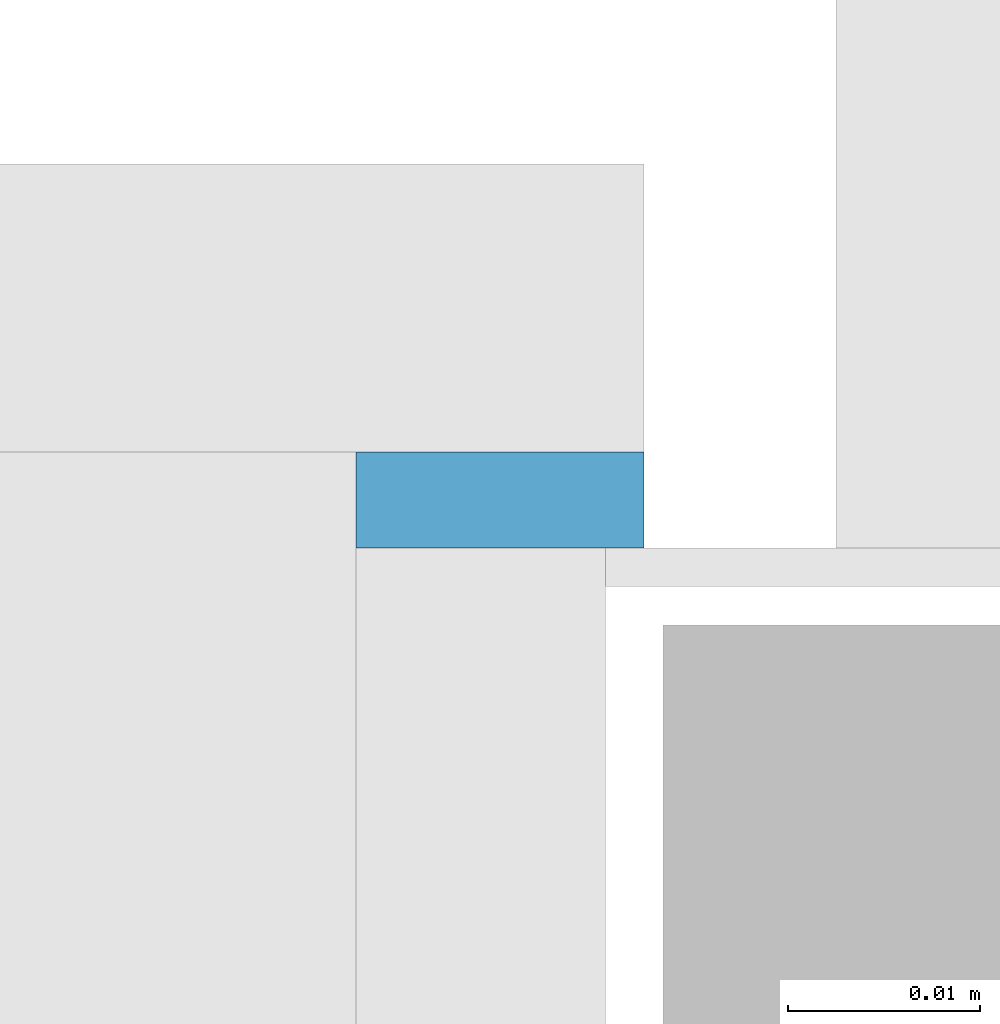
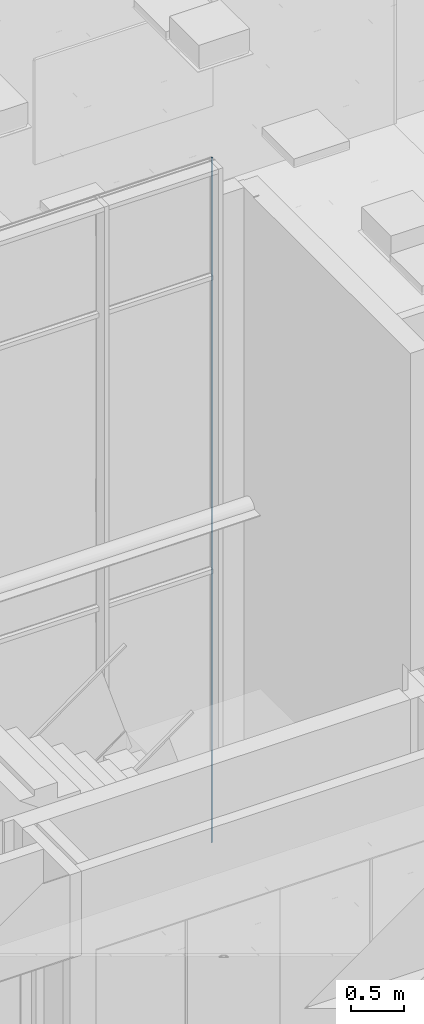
# One storey, part 111 of 347: 1 building element part, 1 element without a shape of its own.
"""IFC2X3 building model written with IfcOpenShell, lengths in millimetres."""

from ifc_helpers import new_model, entity, si_unit, converted_unit, derived_unit, money_unit, direction, frame, origin_with_axes, place, context, subcontext, project, spatial, faceted_brep, material, type_object, element, aggregate, save


model = new_model("IFC2X3")

# Units and contexts
model_context = context("Model", 3, precision=0.01, world=origin_with_axes(), true_north=direction((0.0, 1.0)))
plan_context = context("Plan", 3, precision=0.01, world=origin_with_axes(), true_north=direction((0.0, 1.0)))
body_context = subcontext(model_context, "Body", "Model", "MODEL_VIEW")
ifc_project = project(units=[si_unit("LENGTHUNIT", "METRE", prefix="MILLI"), si_unit("AREAUNIT", "SQUARE_METRE"), si_unit("VOLUMEUNIT", "CUBIC_METRE"), converted_unit("PLANEANGLEUNIT", "DEGREE", entity("IfcPlaneAngleMeasure", 0.0174532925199), si_unit("PLANEANGLEUNIT", "RADIAN"), dimensions=[0, 0, 0, 0, 0, 0, 0]), money_unit("EUR"), converted_unit("TIMEUNIT", "Year", entity("IfcTimeMeasure", 31556926.0), si_unit("TIMEUNIT", "SECOND"), dimensions=[0, 0, 1, 0, 0, 0, 0]), si_unit("MASSUNIT", "GRAM", prefix="KILO"), si_unit("THERMODYNAMICTEMPERATUREUNIT", "DEGREE_CELSIUS"), si_unit("LUMINOUSINTENSITYUNIT", "LUMEN"), si_unit("ENERGYUNIT", "JOULE", prefix="MEGA"), derived_unit("THERMALCONDUCTANCEUNIT", [(si_unit("POWERUNIT", "WATT"), 1), (si_unit("LENGTHUNIT", "METRE"), -1), (si_unit("THERMODYNAMICTEMPERATUREUNIT", "KELVIN"), -1)]), derived_unit("SPECIFICHEATCAPACITYUNIT", [(si_unit("ENERGYUNIT", "JOULE"), 1), (si_unit("MASSUNIT", "GRAM", prefix="KILO"), -1), (si_unit("THERMODYNAMICTEMPERATUREUNIT", "KELVIN"), -1)]), derived_unit("MASSDENSITYUNIT", [(si_unit("MASSUNIT", "GRAM", prefix="KILO"), 1), (si_unit("VOLUMEUNIT", "CUBIC_METRE"), -1)])], contexts=[model_context, plan_context])

# Site, building, storey
site_placement = place(None, origin_with_axes())
site = spatial("IfcSite", under=ifc_project, at=site_placement, Name="Site", CompositionType="ELEMENT")
building_placement = place(site_placement, origin_with_axes())
building = spatial("IfcBuilding", under=site, at=building_placement, Name="Naam gebouw", CompositionType="ELEMENT")
storey_placement = place(building_placement, origin_with_axes())
storey = spatial("IfcBuildingStorey", under=building, at=storey_placement, Name="begane grond", CompositionType="ELEMENT", Elevation=0.0)

# Column, building element part
column_type = type_object("IfcColumnType", Name="31 vliesgevelstijl 50 x 215", PredefinedType="COLUMN")
column_placement = place(storey_placement, frame((23809.9999999, 18400.0, 0.0), z_axis=(0.0, 0.0, 1.0), x_axis=(1.0, 0.0, 0.0)))
column = element("IfcColumn", 1, at=column_placement, inside=storey, type_object=column_type, Name="28_kolom ø 275mm", ObjectType="COLUMN")
ifc_material = material(Name="Membraan - rubber")
building_element_part_placement = place(column_placement, origin_with_axes())
building_element_part = element("IfcBuildingElementPart", 2, at=building_element_part_placement, material=ifc_material, Name="Membraan - rubber", context=body_context, shape_type="Brep", body=[
    faceted_brep([(10.0000001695, 200.000000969, 7840.0), (10.0000001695, 200.000000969, 0.0), (10.0000001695, 195.000000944, 0.0), (10.0000001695, 195.000000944, 7840.0), (25.0000002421, 200.000000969, 7840.0), (25.0000002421, 200.000000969, 0.0), (25.0000002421, 195.000000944, 0.0), (23.0000002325, 195.000000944, 0.0), (23.0000002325, 195.000000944, 7840.0), (25.0000002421, 195.000000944, 7840.0)], [[[0, 1, 2, 3]], [[4, 5, 1, 0]], [[2, 1, 5, 6, 7]], [[3, 2, 7, 8]], [[4, 0, 3, 8, 9]], [[9, 6, 5, 4]], [[8, 7, 6, 9]]]),
])
aggregate(column, [building_element_part])

save(model, "model.ifc")
